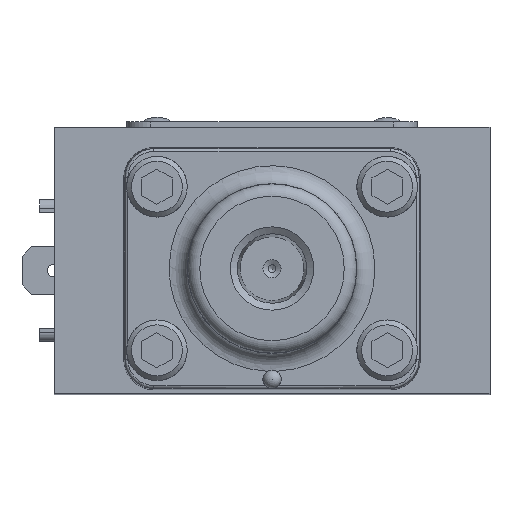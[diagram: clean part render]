
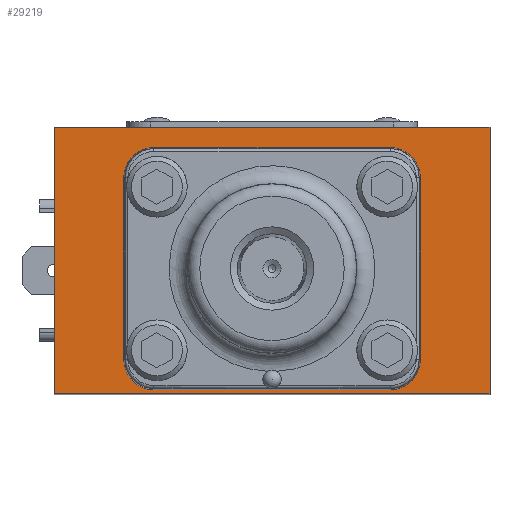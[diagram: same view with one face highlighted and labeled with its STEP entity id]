
A CAD part, top view. The second image highlights one B-rep face of the part: STEP entity #29219.
In plain terms, the highlighted planar face has unit normal (0, 0, 1).
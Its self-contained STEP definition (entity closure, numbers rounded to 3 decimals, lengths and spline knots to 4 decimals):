
#1291=FACE_BOUND('',#4610,.T.);
#1688=PLANE('',#31671);
#2830=FACE_OUTER_BOUND('',#4609,.T.);
#4609=EDGE_LOOP('',(#21541,#21542,#21543,#21544));
#4610=EDGE_LOOP('',(#21545,#21546,#21547,#21548,#21549,#21550,#21551,#21552));
#6452=CIRCLE('',#31672,0.4064);
#6453=CIRCLE('',#31673,0.4064);
#6454=CIRCLE('',#31674,0.4064);
#6455=CIRCLE('',#31675,0.4064);
#7913=LINE('',#48224,#10019);
#7914=LINE('',#48226,#10020);
#7915=LINE('',#48228,#10021);
#7916=LINE('',#48229,#10022);
#7917=LINE('',#48234,#10023);
#7918=LINE('',#48238,#10024);
#7919=LINE('',#48242,#10025);
#7920=LINE('',#48245,#10026);
#10019=VECTOR('',#36835,1.);
#10020=VECTOR('',#36836,1.);
#10021=VECTOR('',#36837,1.);
#10022=VECTOR('',#36838,1.);
#10023=VECTOR('',#36841,1.);
#10024=VECTOR('',#36844,1.);
#10025=VECTOR('',#36847,1.);
#10026=VECTOR('',#36850,1.);
#12509=VERTEX_POINT('',#48222);
#12510=VERTEX_POINT('',#48223);
#12511=VERTEX_POINT('',#48225);
#12512=VERTEX_POINT('',#48227);
#12513=VERTEX_POINT('',#48230);
#12514=VERTEX_POINT('',#48231);
#12515=VERTEX_POINT('',#48233);
#12516=VERTEX_POINT('',#48235);
#12517=VERTEX_POINT('',#48237);
#12518=VERTEX_POINT('',#48239);
#12519=VERTEX_POINT('',#48241);
#12520=VERTEX_POINT('',#48243);
#15789=EDGE_CURVE('',#12509,#12510,#7913,.T.);
#15790=EDGE_CURVE('',#12511,#12510,#7914,.T.);
#15791=EDGE_CURVE('',#12511,#12512,#7915,.T.);
#15792=EDGE_CURVE('',#12512,#12509,#7916,.T.);
#15793=EDGE_CURVE('',#12513,#12514,#6452,.T.);
#15794=EDGE_CURVE('',#12515,#12513,#7917,.T.);
#15795=EDGE_CURVE('',#12516,#12515,#6453,.T.);
#15796=EDGE_CURVE('',#12517,#12516,#7918,.T.);
#15797=EDGE_CURVE('',#12518,#12517,#6454,.T.);
#15798=EDGE_CURVE('',#12519,#12518,#7919,.T.);
#15799=EDGE_CURVE('',#12520,#12519,#6455,.T.);
#15800=EDGE_CURVE('',#12514,#12520,#7920,.T.);
#21541=ORIENTED_EDGE('',*,*,#15789,.T.);
#21542=ORIENTED_EDGE('',*,*,#15790,.F.);
#21543=ORIENTED_EDGE('',*,*,#15791,.T.);
#21544=ORIENTED_EDGE('',*,*,#15792,.T.);
#21545=ORIENTED_EDGE('',*,*,#15793,.F.);
#21546=ORIENTED_EDGE('',*,*,#15794,.F.);
#21547=ORIENTED_EDGE('',*,*,#15795,.F.);
#21548=ORIENTED_EDGE('',*,*,#15796,.F.);
#21549=ORIENTED_EDGE('',*,*,#15797,.F.);
#21550=ORIENTED_EDGE('',*,*,#15798,.F.);
#21551=ORIENTED_EDGE('',*,*,#15799,.F.);
#21552=ORIENTED_EDGE('',*,*,#15800,.F.);
#29219=ADVANCED_FACE('',(#2830,#1291),#1688,.T.);
#31671=AXIS2_PLACEMENT_3D('',#48221,#36833,#36834);
#31672=AXIS2_PLACEMENT_3D('',#48232,#36839,#36840);
#31673=AXIS2_PLACEMENT_3D('',#48236,#36842,#36843);
#31674=AXIS2_PLACEMENT_3D('',#48240,#36845,#36846);
#31675=AXIS2_PLACEMENT_3D('',#48244,#36848,#36849);
#36833=DIRECTION('center_axis',(0.,0.,1.));
#36834=DIRECTION('ref_axis',(1.,0.,0.));
#36835=DIRECTION('',(-1.,0.,0.));
#36836=DIRECTION('',(0.,1.,0.));
#36837=DIRECTION('',(1.,0.,0.));
#36838=DIRECTION('',(0.,1.,0.));
#36839=DIRECTION('center_axis',(0.,0.,
1.));
#36840=DIRECTION('ref_axis',(-1.,0.,0.));
#36841=DIRECTION('',(1.,0.,0.));
#36842=DIRECTION('center_axis',(0.,0.,
1.));
#36843=DIRECTION('ref_axis',(0.,1.,0.));
#36844=DIRECTION('',(0.,-1.,0.));
#36845=DIRECTION('center_axis',(0.,0.,
1.));
#36846=DIRECTION('ref_axis',(1.,0.,0.));
#36847=DIRECTION('',(-1.,0.,0.));
#36848=DIRECTION('center_axis',(0.,0.,
1.));
#36849=DIRECTION('ref_axis',(0.,-1.,0.));
#36850=DIRECTION('',(0.,1.,0.));
#48221=CARTESIAN_POINT('Origin',(2.8575,0.,4.7104));
#48222=CARTESIAN_POINT('',(2.8575,1.8567,4.7104));
#48223=CARTESIAN_POINT('',(-2.8575,1.8567,4.7104));
#48224=CARTESIAN_POINT('',(-2.8575,1.8567,4.7104));
#48225=CARTESIAN_POINT('',(-2.8575,-1.6358,4.7104));
#48226=CARTESIAN_POINT('',(-2.8575,0.,4.7104));
#48227=CARTESIAN_POINT('',(2.8575,-1.6358,4.7104));
#48228=CARTESIAN_POINT('',(-2.8575,-1.6358,4.7104));
#48229=CARTESIAN_POINT('',(2.8575,0.,4.7104));
#48230=CARTESIAN_POINT('',(1.538,-1.5875,4.7104));
#48231=CARTESIAN_POINT('',(1.9444,-1.1811,4.7104));
#48232=CARTESIAN_POINT('Origin',(1.538,-1.1811,4.7104));
#48233=CARTESIAN_POINT('',(-1.538,-1.5875,4.7104));
#48234=CARTESIAN_POINT('',(-1.538,-1.5875,4.7104));
#48235=CARTESIAN_POINT('',(-1.9444,-1.1811,4.7104));
#48236=CARTESIAN_POINT('Origin',(-1.538,-1.1811,4.7104));
#48237=CARTESIAN_POINT('',(-1.9444,1.1811,4.7104));
#48238=CARTESIAN_POINT('',(-1.9444,1.1811,4.7104));
#48239=CARTESIAN_POINT('',(-1.538,1.5875,4.7104));
#48240=CARTESIAN_POINT('Origin',(-1.538,1.1811,4.7104));
#48241=CARTESIAN_POINT('',(1.538,1.5875,4.7104));
#48242=CARTESIAN_POINT('',(1.538,1.5875,4.7104));
#48243=CARTESIAN_POINT('',(1.9444,1.1811,4.7104));
#48244=CARTESIAN_POINT('Origin',(1.538,1.1811,4.7104));
#48245=CARTESIAN_POINT('',(1.9444,-1.1811,4.7104));
